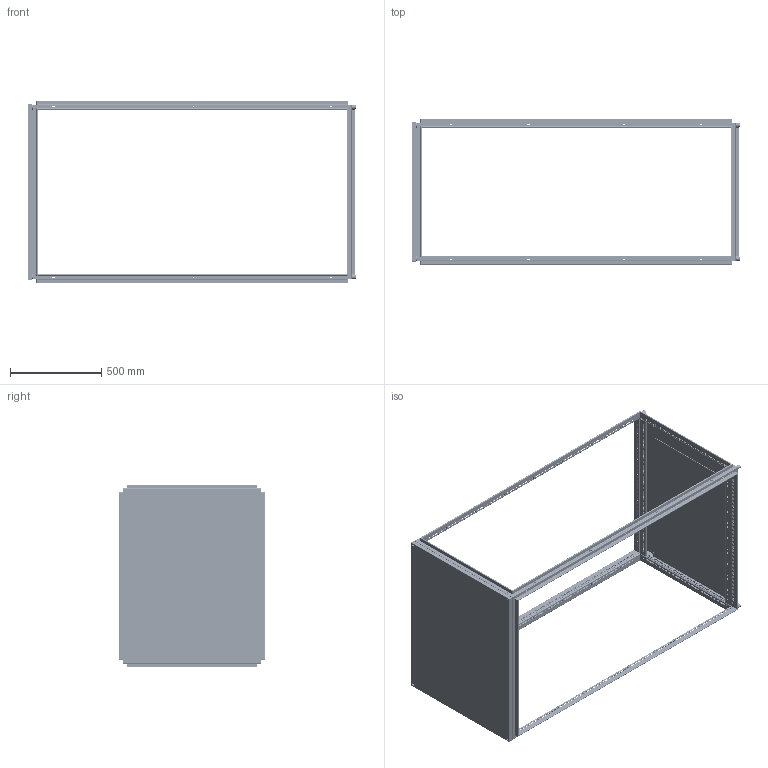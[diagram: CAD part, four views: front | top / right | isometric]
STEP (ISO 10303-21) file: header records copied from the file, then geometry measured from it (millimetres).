
FILE_DESCRIPTION (( 'STEP AP214' ), '1' );
FILE_NAME ('Êàðêàñ1800x800x1000(259541).STEP', '2018-07-05T12:27:54', ( '' ), ( '' ), 'SwSTEP 2.0', 'SolidWorks 2018', '' );
FILE_SCHEMA (( 'AUTOMOTIVE_DESIGN' ));
Length unit declared in the file: millimetre
Products named in the file (12): 瓔鍐麃鍧鍷800; Ïðîôèëü1000; 橡铘桦铌钼铋1800; ﾄ濵800x1000; ÄíîÊðûøêà800x1000; Ïðîôèëü800; 瓔鍼賙鍷800; 忺謤僔1800x800x1000(259541); äíî áîêîâèíà1000; 忺謤僔800x1000x1800; Êðûøà800x1000; 赶鎀鍧
Assembly tree (28 placements, depth 3):
  忺謤僔1800x800x1000(259541)
    忺謤僔800x1000x1800
      橡铘桦铌钼铋1800  x4
      赶鎀鍧  x8
      Ïðîôèëü800  x4
      Ïðîôèëü1000  x4
    ﾄ濵800x1000
      äíî áîêîâèíà1000  x2
      瓔鍼賙鍷800
      瓔鍐麃鍧鍷800
      ÄíîÊðûøêà800x1000
    Êðûøà800x1000
Bounding box: 1800.5 x 800 x 1000 mm (x, y, z)
Volume: 6491132 mm3; surface area: 8707871.6 mm2
Topology: 26 solids, 26 shells, 9630 faces, 27224 edges, 17678 vertices
Faces by surface type: plane 6396, cylinder 3202, sphere 24, bspline 8
Entity records: 84783 total; most frequent: CARTESIAN_POINT 14756, ORIENTED_EDGE 14274, DIRECTION 13935, EDGE_CURVE 7137, VECTOR 5431, LINE 5431, VERTEX_POINT 4625, AXIS2_PLACEMENT_3D 4252
